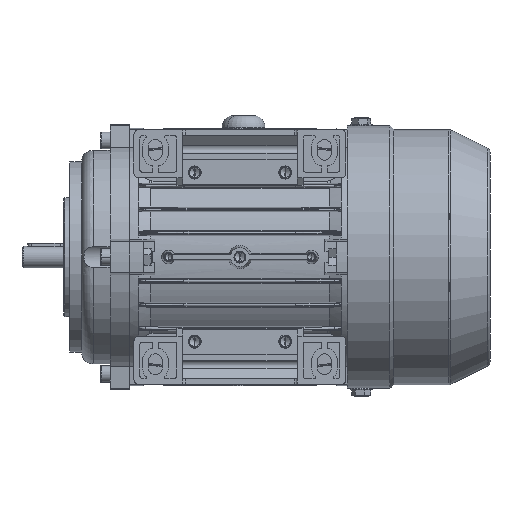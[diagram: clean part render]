
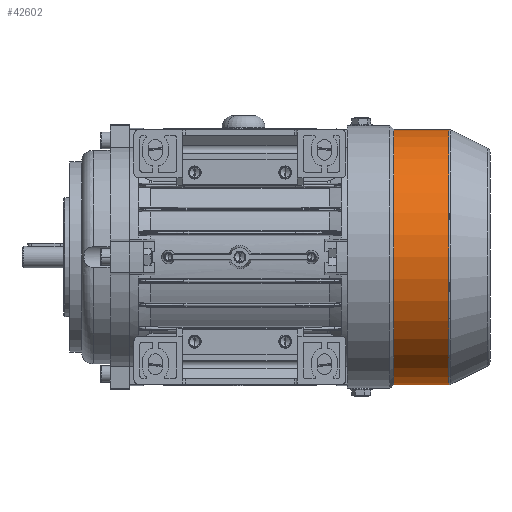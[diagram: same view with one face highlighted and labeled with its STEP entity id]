
A CAD part, front view. The second image highlights one B-rep face of the part: STEP entity #42602.
In plain terms, the highlighted cylindrical face has radius 53.6 mm (diameter 107.2 mm), a partial arc.
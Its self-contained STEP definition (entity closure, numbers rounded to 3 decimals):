
#1689 = ORIENTED_EDGE ( 'NONE', *, *, #33853, .T. ) ;
#5021 = CARTESIAN_POINT ( 'NONE',  ( 38., 0., 0. ) ) ;
#6326 = CYLINDRICAL_SURFACE ( 'NONE', #54622, 53.6 ) ;
#7254 = ORIENTED_EDGE ( 'NONE', *, *, #57424, .T. ) ;
#11298 = CARTESIAN_POINT ( 'NONE',  ( 0., 0., 53.6 ) ) ;
#12223 = VERTEX_POINT ( 'NONE', #28985 ) ;
#16056 = EDGE_CURVE ( 'NONE', #17881, #17771, #87324, .T. ) ;
#16298 = DIRECTION ( 'NONE',  ( 0., 0., -1. ) ) ;
#16955 = CARTESIAN_POINT ( 'NONE',  ( 0., 0., 0. ) ) ;
#17771 = VERTEX_POINT ( 'NONE', #96343 ) ;
#17881 = VERTEX_POINT ( 'NONE', #53619 ) ;
#18802 = DIRECTION ( 'NONE',  ( -1., 0., 0. ) ) ;
#19984 = DIRECTION ( 'NONE',  ( 0., 0., 1. ) ) ;
#20532 = AXIS2_PLACEMENT_3D ( 'NONE', #83934, #38107, #16298 ) ;
#24431 = DIRECTION ( 'NONE',  ( -1., 0., 0. ) ) ;
#28985 = CARTESIAN_POINT ( 'NONE',  ( 14.732, 0., -53.6 ) ) ;
#29599 = CARTESIAN_POINT ( 'NONE',  ( 0., 0., -53.6 ) ) ;
#33853 = EDGE_CURVE ( 'NONE', #17771, #71009, #46343, .T. ) ;
#38107 = DIRECTION ( 'NONE',  ( 1., 0., 0. ) ) ;
#40143 = FACE_OUTER_BOUND ( 'NONE', #87716, .T. ) ;
#40270 = EDGE_CURVE ( 'NONE', #17881, #12223, #56760, .T. ) ;
#42602 = ADVANCED_FACE ( 'NONE', ( #40143 ), #6326, .T. ) ;
#45209 = VECTOR ( 'NONE', #89403, 1000. ) ;
#46343 = LINE ( 'NONE', #11298, #54446 ) ;
#53584 = CIRCLE ( 'NONE', #20532, 53.6 ) ;
#53619 = CARTESIAN_POINT ( 'NONE',  ( 38., 0., -53.6 ) ) ;
#54446 = VECTOR ( 'NONE', #18802, 1000. ) ;
#54622 = AXIS2_PLACEMENT_3D ( 'NONE', #16955, #24431, #62215 ) ;
#56760 = LINE ( 'NONE', #29599, #45209 ) ;
#57424 = EDGE_CURVE ( 'NONE', #71009, #12223, #53584, .T. ) ;
#62215 = DIRECTION ( 'NONE',  ( 0., 0., 1. ) ) ;
#63627 = ORIENTED_EDGE ( 'NONE', *, *, #16056, .T. ) ;
#64629 = DIRECTION ( 'NONE',  ( -1., 0., 0. ) ) ;
#71009 = VERTEX_POINT ( 'NONE', #83225 ) ;
#75716 = ORIENTED_EDGE ( 'NONE', *, *, #40270, .F. ) ;
#82098 = AXIS2_PLACEMENT_3D ( 'NONE', #5021, #64629, #19984 ) ;
#83225 = CARTESIAN_POINT ( 'NONE',  ( 14.732, 0., 53.6 ) ) ;
#83934 = CARTESIAN_POINT ( 'NONE',  ( 14.732, 0., 0. ) ) ;
#87324 = CIRCLE ( 'NONE', #82098, 53.6 ) ;
#87716 = EDGE_LOOP ( 'NONE', ( #75716, #63627, #1689, #7254 ) ) ;
#89403 = DIRECTION ( 'NONE',  ( -1., 0., 0. ) ) ;
#96343 = CARTESIAN_POINT ( 'NONE',  ( 38., 0., 53.6 ) ) ;
